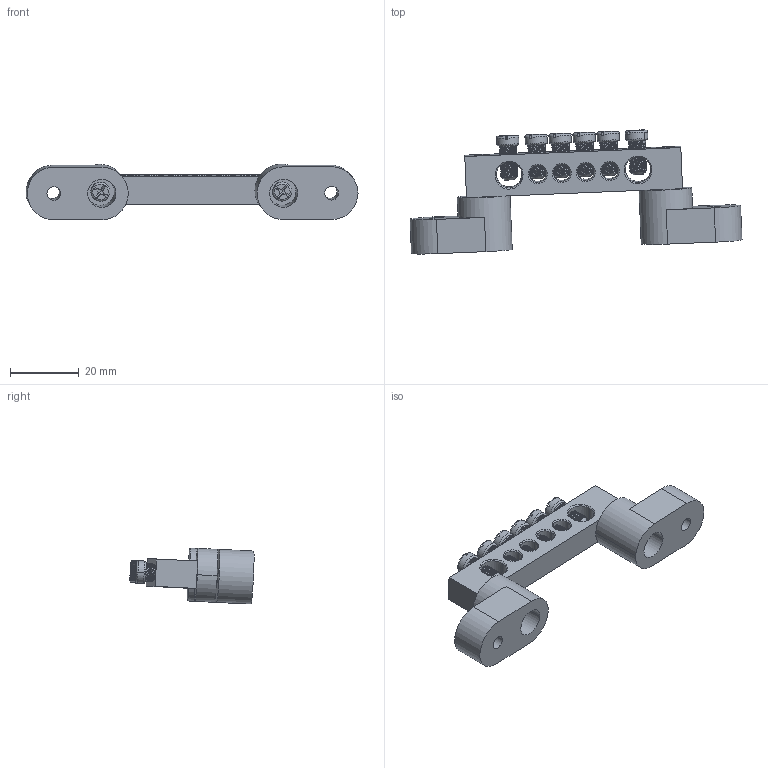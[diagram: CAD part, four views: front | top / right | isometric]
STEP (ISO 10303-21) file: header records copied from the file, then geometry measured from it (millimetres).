
FILE_DESCRIPTION (( 'STEP AP214' ), '1' );
FILE_NAME ('277922 OptiKit BB-T-N-S-6-8õ12-ñèíèé.STEP', '2020-02-06T12:37:41', ( '' ), ( '' ), 'SwSTEP 2.0', 'SolidWorks 2018', '' );
FILE_SCHEMA (( 'AUTOMOTIVE_DESIGN' ));
Length unit declared in the file: millimetre
Products named in the file (6): Øèíà íóëåâàÿ ñ êðåïåæíûìè îòâåðñòèÿìè ïî êðàÿì 8õ12 6-2_1; Âèíò ì5; Øèíà 8õ12 6 2; DIN èçîëÿòîð 2; Âèíò ì4; 277922 OptiKit BB-T-N-S-6-8õ12-ñèíèé
Assembly tree (12 placements, depth 3):
  277922 OptiKit BB-T-N-S-6-8õ12-ñèíèé
    Âèíò ì4  x2
    DIN èçîëÿòîð 2  x2
    Øèíà íóëåâàÿ ñ êðåïåæíûìè îòâåðñòèÿìè ïî êðàÿì 8õ12 6-2_1
      Øèíà 8õ12 6 2
      Âèíò ì5  x6
Bounding box: 96.73 x 36.16 x 16.24 mm (x, y, z)
Volume: 14531.1 mm3; surface area: 10574.9 mm2
Topology: 11 solids, 11 shells, 678 faces, 1870 edges, 1208 vertices
Faces by surface type: cylinder 260, plane 234, cone 102, torus 56, bspline 26
Entity records: 11356 total; most frequent: CARTESIAN_POINT 5768, ORIENTED_EDGE 1166, DIRECTION 1009, EDGE_CURVE 583, AXIS2_PLACEMENT_3D 389, VERTEX_POINT 376, EDGE_LOOP 253, VECTOR 231
